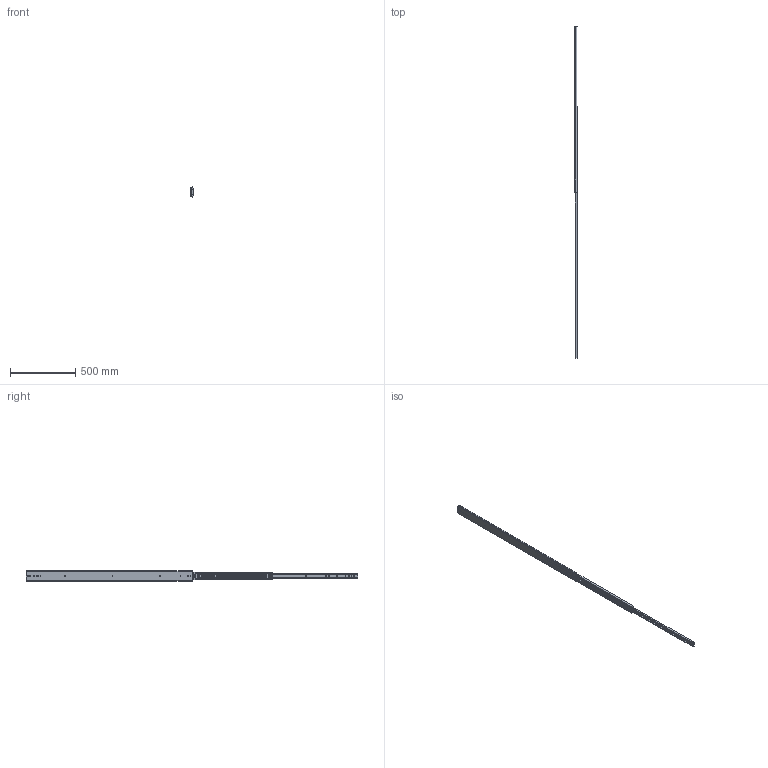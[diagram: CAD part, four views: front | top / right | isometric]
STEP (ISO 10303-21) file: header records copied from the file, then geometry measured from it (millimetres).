
FILE_DESCRIPTION(/* description */ ('Unknown'),/* implementation_level */ '2;1');
FILE_NAME(/* name */ '76J01-50 open',/* time_stamp */ '2024-07-30T09:43:03+08:00',/* author */ ('Unknown'),/* organization */ ('Unknown'),/* preprocessor_version */ 'ST-DEVELOPER v18.104',/* originating_system */ 'Solid Edge',/* authorisation */ 'Unknown');
FILE_SCHEMA (('AUTOMOTIVE_DESIGN {1 0 10303 214 3 1 1}'));
Length unit declared in the file: millimetre
Products named in the file (4): 76J01-50 open; 76J01 50 inch 內_0i; 76J01 50 吋中_; 76J01 50 吋
Assembly tree (3 placements, depth 2):
  76J01-50 open
    76J01 50 inch 內_0i
    76J01 50 吋中_
    76J01 50 吋
Bounding box: 19.3 x 2539.3 x 76.76 mm (x, y, z)
Volume: 1002610.1 mm3; surface area: 623522.6 mm2
Topology: 3 solids, 3 shells, 196 faces, 606 edges, 410 vertices
Faces by surface type: plane 104, cylinder 92
Full cylindrical faces by diameter (mm): 5.2 x16, 7.1 x2
Entity records: 7179 total; most frequent: CARTESIAN_POINT 1168, DIRECTION 1152, ORIENTED_EDGE 1140, EDGE_CURVE 570, VERTEX_POINT 392, LINE 384, VECTOR 384, AXIS2_PLACEMENT_3D 384
